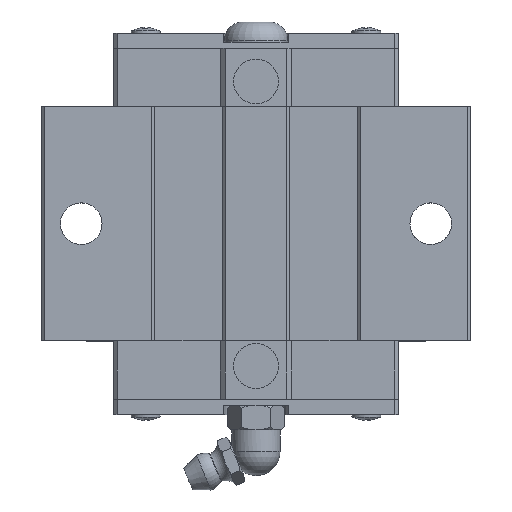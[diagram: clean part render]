
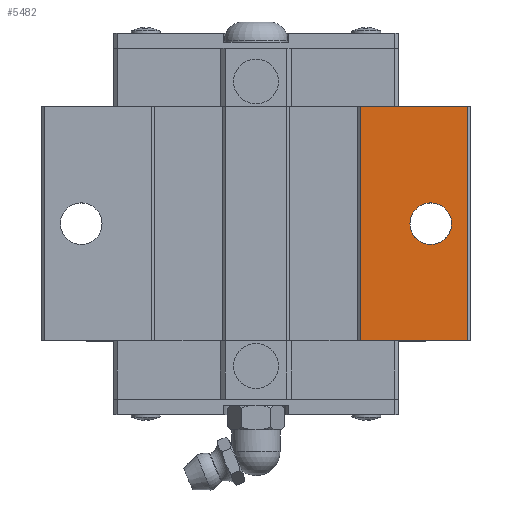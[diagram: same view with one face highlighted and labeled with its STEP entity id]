
A CAD part, top view. The second image highlights one B-rep face of the part: STEP entity #5482.
In plain terms, the highlighted planar face has unit normal (0, 0, 1).
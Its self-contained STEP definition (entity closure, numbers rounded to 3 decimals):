
#2618=VERTEX_POINT('',#7645);
#3514=EDGE_CURVE('',#5414,#3608,#8639,.T.);
#3608=VERTEX_POINT('',#8746);
#4408=EDGE_CURVE('',#6314,#5414,#9618,.T.);
#4428=EDGE_CURVE('',#5426,#3608,#9640,.T.);
#4742=VERTEX_POINT('',#9985);
#5414=VERTEX_POINT('',#10717);
#5426=VERTEX_POINT('',#10730);
#5482=ADVANCED_FACE('',(#10789,#10790),#10791,.T.);
#5766=EDGE_CURVE('',#4742,#2618,#11092,.T.);
#5788=EDGE_CURVE('',#5426,#6314,#11115,.T.);
#6314=VERTEX_POINT('',#11693);
#7190=EDGE_CURVE('',#2618,#4742,#12653,.T.);
#7645=CARTESIAN_POINT('',(25.1,31.1,36.0));
#8639=LINE('',#14841,#14842);
#8746=CARTESIAN_POINT('',(34.45,12.0,36.0));
#9618=LINE('',#16496,#16497);
#9640=LINE('',#16528,#16529);
#9985=CARTESIAN_POINT('',(31.9,31.1,36.0));
#10717=CARTESIAN_POINT('',(17.0,12.0,36.0));
#10730=CARTESIAN_POINT('',(34.45,50.2,36.0));
#10789=FACE_OUTER_BOUND('',#18516,.T.);
#10790=FACE_BOUND('',#18517,.T.);
#10791=PLANE('',#18518);
#11092=CIRCLE('',#19094,3.4);
#11115=LINE('',#19128,#19129);
#11693=CARTESIAN_POINT('',(17.0,50.2,36.0));
#12653=CIRCLE('',#21879,3.4);
#14841=CARTESIAN_POINT('',(34.45,12.0,36.0));
#14842=VECTOR('',#23790,1.0);
#16496=CARTESIAN_POINT('',(17.0,59.75,36.0));
#16497=VECTOR('',#24741,1.0);
#16528=CARTESIAN_POINT('',(34.45,50.2,36.0));
#16529=VECTOR('',#24781,1.0);
#18516=EDGE_LOOP('',(#25907,#25908,#25909,#25910));
#18517=EDGE_LOOP('',(#25911,#25912));
#18518=AXIS2_PLACEMENT_3D('',#25913,#25914,#25915);
#19094=AXIS2_PLACEMENT_3D('',#26176,#26177,#26178);
#19128=CARTESIAN_POINT('',(34.45,50.2,36.0));
#19129=VECTOR('',#26226,1.0);
#21879=AXIS2_PLACEMENT_3D('',#27834,#27835,#27836);
#23790=DIRECTION('',(1.0,0.0,0.0));
#24741=DIRECTION('',(0.0,-1.0,0.0));
#24781=DIRECTION('',(0.0,-1.0,0.0));
#25907=ORIENTED_EDGE('',*,*,#4408,.T.);
#25908=ORIENTED_EDGE('',*,*,#3514,.T.);
#25909=ORIENTED_EDGE('',*,*,#4428,.F.);
#25910=ORIENTED_EDGE('',*,*,#5788,.T.);
#25911=ORIENTED_EDGE('',*,*,#5766,.T.);
#25912=ORIENTED_EDGE('',*,*,#7190,.T.);
#25913=CARTESIAN_POINT('',(-34.45,50.2,36.0));
#25914=DIRECTION('',(0.0,0.0,1.0));
#25915=DIRECTION('',(-1.0,0.0,0.0));
#26176=CARTESIAN_POINT('',(28.5,31.1,36.0));
#26177=DIRECTION('',(0.0,0.0,-1.0));
#26178=DIRECTION('',(1.0,0.0,0.0));
#26226=DIRECTION('',(-1.0,0.0,0.0));
#27834=CARTESIAN_POINT('',(28.5,31.1,36.0));
#27835=DIRECTION('',(0.0,0.0,-1.0));
#27836=DIRECTION('',(1.0,0.0,0.0));
